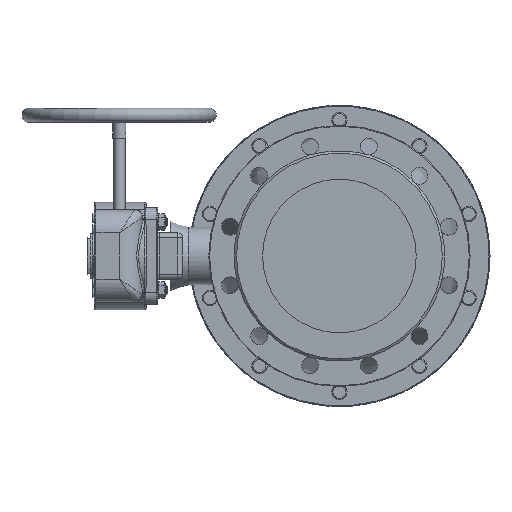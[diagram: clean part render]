
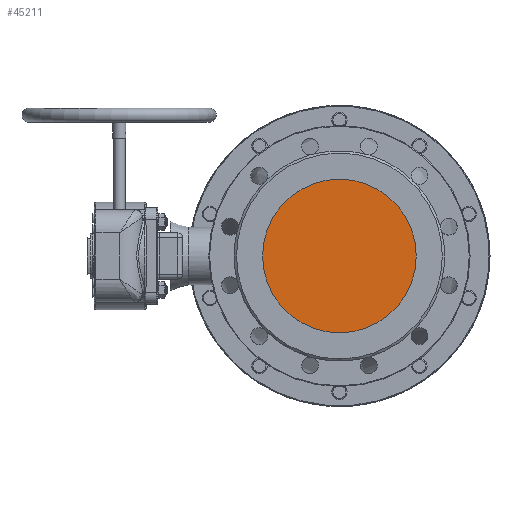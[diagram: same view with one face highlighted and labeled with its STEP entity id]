
A CAD part, left-side view. The second image highlights one B-rep face of the part: STEP entity #45211.
In plain terms, the highlighted planar face has unit normal (-1, 0, 0).
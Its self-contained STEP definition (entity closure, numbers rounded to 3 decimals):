
#45180=CARTESIAN_POINT('',(-188.0,0.,100.0));
#45181=VERTEX_POINT('',#45180);
#45182=CARTESIAN_POINT('',(-188.0,0.,0.0));
#45183=DIRECTION('',(-1.0,0.0,0.0));
#45184=DIRECTION('',(0.0,0.0,-1.0));
#45185=AXIS2_PLACEMENT_3D('',#45182,#45183,#45184);
#45186=CIRCLE('',#45185,100.0);
#45187=EDGE_CURVE('',#45181,#45181,#45186,.T.);
#45203=CARTESIAN_POINT('',(-188.0,0.,0.0));
#45204=DIRECTION('',(1.0,0.0,0.0));
#45205=DIRECTION('',(0.0,0.0,-1.0));
#45206=AXIS2_PLACEMENT_3D('',#45203,#45204,#45205);
#45207=PLANE('',#45206);
#45208=ORIENTED_EDGE('',*,*,#45187,.T.);
#45209=EDGE_LOOP('',(#45208));
#45210=FACE_OUTER_BOUND('',#45209,.T.);
#45211=ADVANCED_FACE('',(#45210),#45207,.F.);
